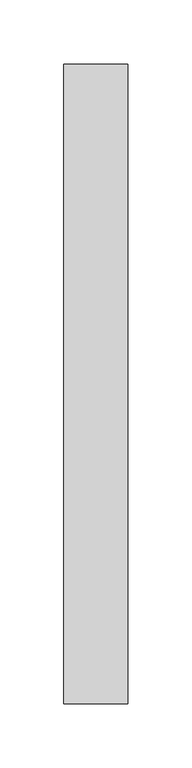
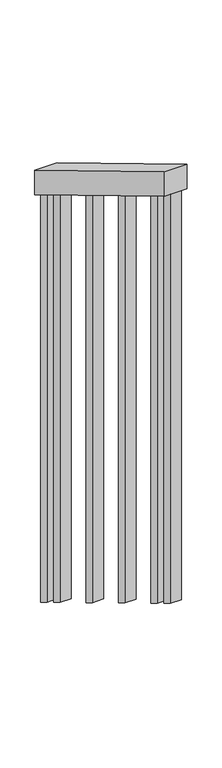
"""IFC4 building model written with IfcOpenShell, lengths in millimetres: railing geometry, 1100 мм."""

from ifc_helpers import new_model, si_unit, frame, origin, place, context, project, spatial, polyline, outline, extrude, source, transform, mapped, element, save


def railing_35c55930(model_context):
    return source(origin(), model_context, "Body", "SweptSolid", [
        extrude(outline(polyline([(4949.6773594, 800.0), (4949.6773594, 741.6904811), (4449.6773594, 1041.6904811), (4449.6773594, 1100.0), (4949.6773594, 800.0)])), frame((-1758.8836511, 0.0, 0.0), z_axis=(1.0, 0.0, 0.0), x_axis=(0.0, 1.0, 0.0)), (0.0, 0.0, 1.0), 50.0),
        extrude(outline(polyline([(4524.6773594, 996.6904811), (4524.6773594, 36.715214), (4499.6773594, 51.715214), (4499.6773594, 1011.6904811), (4524.6773594, 996.6904811)])), frame((-1746.3836511, 0.0, 0.0), z_axis=(1.0, 0.0, 0.0), x_axis=(0.0, 1.0, 0.0)), (0.0, 0.0, 1.0), 25.0),
        extrude(outline(polyline([(4649.6773594, 921.6904811), (4649.6773594, -38.284786), (4624.6773594, -23.284786), (4624.6773594, 936.6904811), (4649.6773594, 921.6904811)])), frame((-1746.3836511, 0.0, 0.0), z_axis=(1.0, 0.0, 0.0), x_axis=(0.0, 1.0, 0.0)), (0.0, 0.0, 1.0), 25.0),
        extrude(outline(polyline([(4774.6773594, 846.6904811), (4774.6773594, -113.284786), (4749.6773594, -98.284786), (4749.6773594, 861.6904811), (4774.6773594, 846.6904811)])), frame((-1746.3836511, 0.0, 0.0), z_axis=(1.0, 0.0, 0.0), x_axis=(0.0, 1.0, 0.0)), (0.0, 0.0, 1.0), 25.0),
        extrude(outline(polyline([(4899.6773594, 771.6904811), (4899.6773594, -188.284786), (4874.6773594, -173.284786), (4874.6773594, 786.6904811), (4899.6773594, 771.6904811)])), frame((-1746.3836511, 0.0, 0.0), z_axis=(1.0, 0.0, 0.0), x_axis=(0.0, 1.0, 0.0)), (0.0, 0.0, 1.0), 25.0),
        extrude(outline(polyline([(4474.6773594, 1026.6904811), (4474.6773594, 66.715214), (4449.6773594, 81.715214), (4449.6773594, 1041.6904811), (4474.6773594, 1026.6904811)])), frame((-1746.3836511, 0.0, 0.0), z_axis=(1.0, 0.0, 0.0), x_axis=(0.0, 1.0, 0.0)), (0.0, 0.0, 1.0), 25.0),
        extrude(outline(polyline([(4949.6773594, 741.6904811), (4949.6773594, -218.284786), (4924.6773594, -203.284786), (4924.6773594, 756.6904811), (4949.6773594, 741.6904811)])), frame((-1746.3836511, 0.0, 0.0), z_axis=(1.0, 0.0, 0.0), x_axis=(0.0, 1.0, 0.0)), (0.0, 0.0, 1.0), 25.0),
    ])


if __name__ == "__main__":
    model = new_model("IFC4")
    model_context = context("Model", 3, world=origin())
    ifc_project = project(units=[si_unit("LENGTHUNIT", "METRE", prefix="MILLI")], contexts=[model_context])
    site = spatial("IfcSite", under=ifc_project)
    building = spatial("IfcBuilding", under=site)
    placement = place(None, origin())
    railing_shape = railing_35c55930(model_context)
    element("IfcRailing", 1, ObjectType="1100 мм", at=placement, inside=building, context=model_context, shape_type="MappedRepresentation", body=[
        mapped(railing_shape, transform((0.0, 0.0, 0.0), x_axis=(1.0, 0.0, 0.0), y_axis=(0.0, 1.0, 0.0), z_axis=(0.0, 0.0, 1.0))),
    ])
    save(model, "model.ifc")
